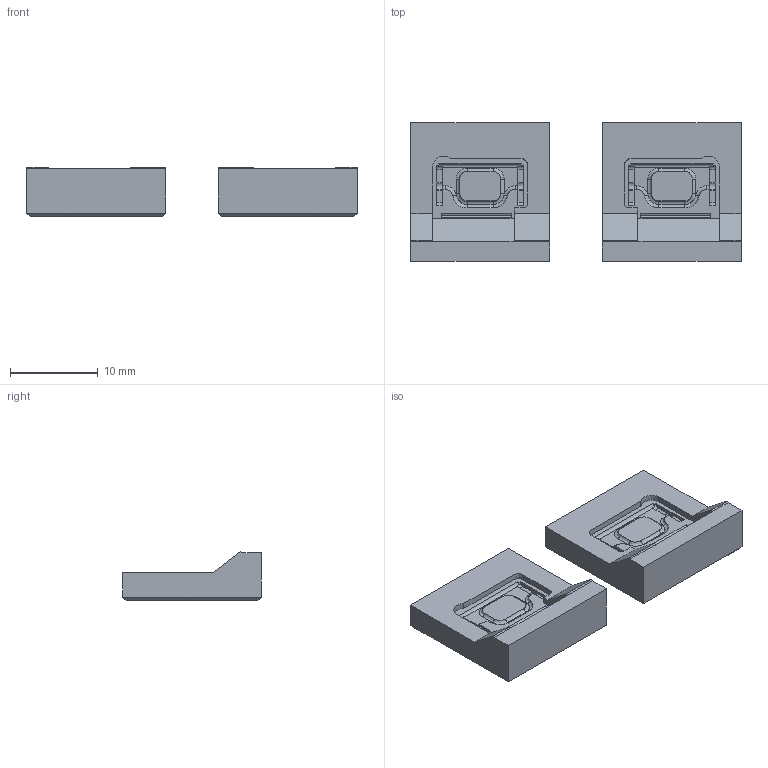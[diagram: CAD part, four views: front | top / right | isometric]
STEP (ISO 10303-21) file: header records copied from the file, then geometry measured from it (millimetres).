
FILE_DESCRIPTION(/* description */ (''),/* implementation_level */ '2;1');
FILE_NAME(/* name */ 'F61071~1',/* time_stamp */ '2021-04-02T13:22:46+02:00',/* author */ (''),/* organization */ (''),/* preprocessor_version */ 'ST-DEVELOPER v16.5',/* originating_system */ '',/* authorisation */ '');
FILE_SCHEMA (('CONFIG_CONTROL_DESIGN'));
Length unit declared in the file: millimetre
Products named in the file (1): Document
Bounding box: 37.6 x 15.8 x 5.62 mm (x, y, z)
Volume: 1695.2 mm3; surface area: 1603.1 mm2
Topology: 2 solids, 2 shells, 132 faces, 356 edges, 234 vertices
Faces by surface type: plane 72, cylinder 40, bspline 20
Entity records: 4776 total; most frequent: CARTESIAN_POINT 2476, ORIENTED_EDGE 712, EDGE_CURVE 356, VERTEX_POINT 234, B_SPLINE_CURVE_WITH_KNOTS 156, EDGE_LOOP 138, ADVANCED_FACE 132, FACE_OUTER_BOUND 132
